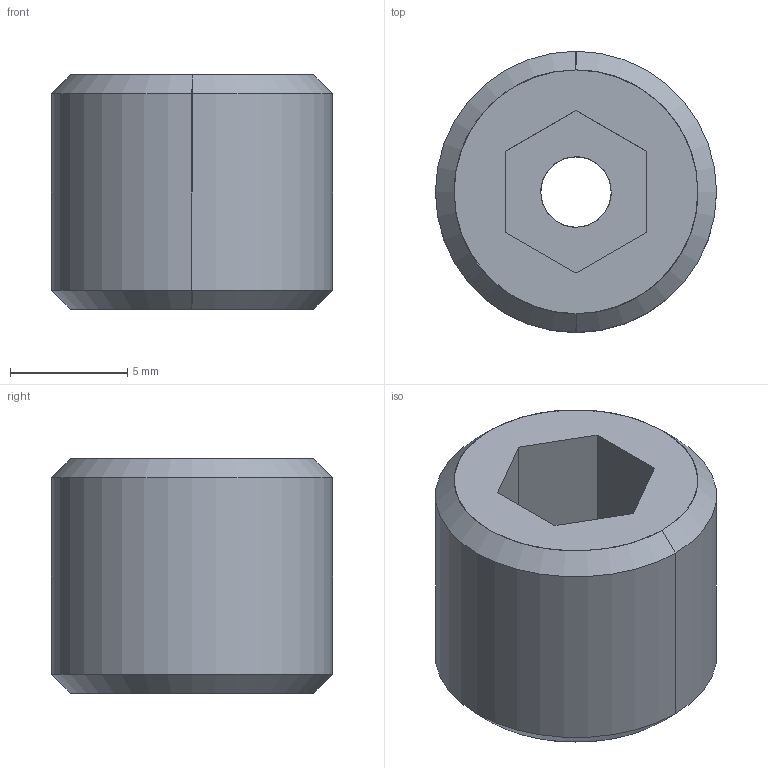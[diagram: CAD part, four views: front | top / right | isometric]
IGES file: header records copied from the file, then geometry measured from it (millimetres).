
Global section: file name: E:\UnigraphicsGraphicData\MISUMI_PRESS-PARTS\IGES\3d_mswh12_00459_r00.igs; native system: NX V5.0; preprocessor: UGS NX IGES V5.0; author: MISUMI; date: 20110105.161523; units: millimetre
Bounding box: 12 x 12 x 10 mm (x, y, z)
Surface area: 703.6 mm2 (no closed solid volume)
Topology: 0 solids, 0 shells, 17 faces, 100 edges, 100 vertices
Faces by surface type: bspline 17
